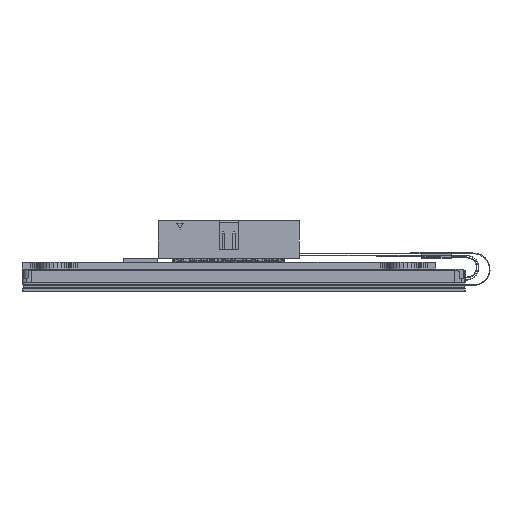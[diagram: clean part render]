
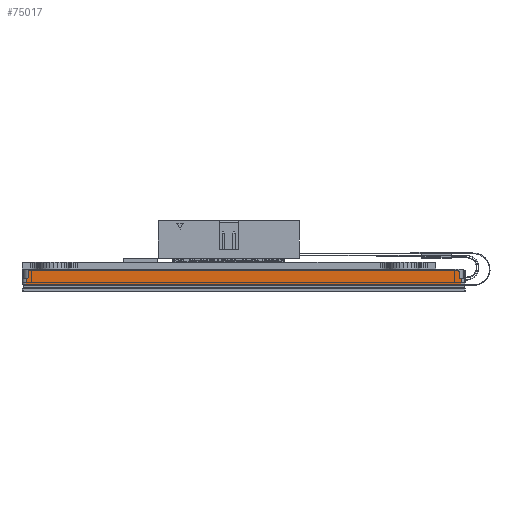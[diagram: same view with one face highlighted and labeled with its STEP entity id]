
A CAD part, left-side view. The second image highlights one B-rep face of the part: STEP entity #75017.
In plain terms, the highlighted planar face has unit normal (-1, 0, 0).
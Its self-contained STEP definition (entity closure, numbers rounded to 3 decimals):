
#1227 = VERTEX_POINT ( 'NONE', #141599 ) ;
#1663 = CARTESIAN_POINT ( 'NONE',  ( -23.939, 149.558, 129.665 ) ) ;
#7223 = CARTESIAN_POINT ( 'NONE',  ( -23.939, 47.758, 131.195 ) ) ;
#8529 = EDGE_CURVE ( 'NONE', #137666, #94457, #54977, .T. ) ;
#8570 = VERTEX_POINT ( 'NONE', #46252 ) ;
#10477 = CARTESIAN_POINT ( 'NONE',  ( -23.939, 47.758, 129.365 ) ) ;
#12494 = DIRECTION ( 'NONE',  ( 0., 1., 0. ) ) ;
#13588 = VECTOR ( 'NONE', #12494, 1000. ) ;
#15262 = ORIENTED_EDGE ( 'NONE', *, *, #32842, .T. ) ;
#15421 = CARTESIAN_POINT ( 'NONE',  ( -23.939, 149.258, 129.665 ) ) ;
#18016 = CIRCLE ( 'NONE', #126852, 0.3 ) ;
#20038 = ORIENTED_EDGE ( 'NONE', *, *, #8529, .T. ) ;
#20427 = EDGE_CURVE ( 'NONE', #108803, #119003, #61481, .T. ) ;
#21973 = LINE ( 'NONE', #74457, #129001 ) ;
#22861 = CARTESIAN_POINT ( 'NONE',  ( -23.939, 47.758, 131.195 ) ) ;
#22874 = VERTEX_POINT ( 'NONE', #150840 ) ;
#24270 = VECTOR ( 'NONE', #166151, 1000. ) ;
#26515 = CARTESIAN_POINT ( 'NONE',  ( -23.939, 48.558, 130.895 ) ) ;
#28247 = DIRECTION ( 'NONE',  ( 0., -1., 0. ) ) ;
#29712 = LINE ( 'NONE', #41973, #164032 ) ;
#32842 = EDGE_CURVE ( 'NONE', #8570, #161707, #154830, .T. ) ;
#35934 = DIRECTION ( 'NONE',  ( 0., 0., 1. ) ) ;
#37679 = DIRECTION ( 'NONE',  ( 0., 0., 1. ) ) ;
#41973 = CARTESIAN_POINT ( 'NONE',  ( -23.939, 149.758, 131.195 ) ) ;
#44480 = ORIENTED_EDGE ( 'NONE', *, *, #20427, .T. ) ;
#44861 = EDGE_CURVE ( 'NONE', #64825, #108181, #117469, .T. ) ;
#46252 = CARTESIAN_POINT ( 'NONE',  ( -23.939, 47.758, 127.995 ) ) ;
#50541 = CARTESIAN_POINT ( 'NONE',  ( -23.939, 149.258, 130.895 ) ) ;
#51197 = EDGE_CURVE ( 'NONE', #22874, #108803, #21973, .T. ) ;
#52819 = CARTESIAN_POINT ( 'NONE',  ( -23.939, 48.558, 131.195 ) ) ;
#53262 = DIRECTION ( 'NONE',  ( 0., 1., 0. ) ) ;
#54977 = CIRCLE ( 'NONE', #99676, 0.3 ) ;
#55205 = VECTOR ( 'NONE', #53262, 1000. ) ;
#57450 = CARTESIAN_POINT ( 'NONE',  ( -23.939, 148.958, 131.195 ) ) ;
#61481 = CIRCLE ( 'NONE', #167494, 0.3 ) ;
#64825 = VERTEX_POINT ( 'NONE', #158358 ) ;
#65756 = VECTOR ( 'NONE', #37679, 1000. ) ;
#66245 = ORIENTED_EDGE ( 'NONE', *, *, #92129, .T. ) ;
#66573 = VECTOR ( 'NONE', #89607, 1000. ) ;
#68122 = LINE ( 'NONE', #122294, #55205 ) ;
#68154 = DIRECTION ( 'NONE',  ( 1., 0., 0. ) ) ;
#70824 = DIRECTION ( 'NONE',  ( 0., 0., 1. ) ) ;
#74457 = CARTESIAN_POINT ( 'NONE',  ( -23.939, 48.258, 131.195 ) ) ;
#75017 = ADVANCED_FACE ( 'NONE', ( #127888 ), #156633, .T. ) ;
#79876 = DIRECTION ( 'NONE',  ( -1., 0., 0. ) ) ;
#81800 = DIRECTION ( 'NONE',  ( 1., 0., 0. ) ) ;
#84758 = EDGE_CURVE ( 'NONE', #160131, #161707, #142020, .T. ) ;
#88000 = CARTESIAN_POINT ( 'NONE',  ( -23.939, 47.958, 129.365 ) ) ;
#89607 = DIRECTION ( 'NONE',  ( 0., -1., 0. ) ) ;
#90275 = DIRECTION ( 'NONE',  ( 0., 1., 0. ) ) ;
#90579 = VECTOR ( 'NONE', #152411, 1000. ) ;
#92129 = EDGE_CURVE ( 'NONE', #161005, #64825, #137738, .T. ) ;
#94457 = VERTEX_POINT ( 'NONE', #50541 ) ;
#97192 = LINE ( 'NONE', #112885, #24270 ) ;
#98967 = EDGE_CURVE ( 'NONE', #1227, #108181, #29712, .T. ) ;
#99145 = CARTESIAN_POINT ( 'NONE',  ( -23.939, 149.258, 131.195 ) ) ;
#99676 = AXIS2_PLACEMENT_3D ( 'NONE', #139784, #164303, #124128 ) ;
#100465 = ORIENTED_EDGE ( 'NONE', *, *, #163969, .T. ) ;
#101082 = ORIENTED_EDGE ( 'NONE', *, *, #44861, .T. ) ;
#102721 = CARTESIAN_POINT ( 'NONE',  ( -23.939, 46.758, 129.365 ) ) ;
#108181 = VERTEX_POINT ( 'NONE', #150516 ) ;
#108803 = VERTEX_POINT ( 'NONE', #115089 ) ;
#109071 = ORIENTED_EDGE ( 'NONE', *, *, #116186, .F. ) ;
#112885 = CARTESIAN_POINT ( 'NONE',  ( -23.939, 47.758, 131.195 ) ) ;
#115089 = CARTESIAN_POINT ( 'NONE',  ( -23.939, 48.258, 130.895 ) ) ;
#116186 = EDGE_CURVE ( 'NONE', #8570, #1227, #68122, .T. ) ;
#117469 = LINE ( 'NONE', #130567, #13588 ) ;
#119003 = VERTEX_POINT ( 'NONE', #52819 ) ;
#121463 = DIRECTION ( 'NONE',  ( 0., -1., 0. ) ) ;
#121530 = ORIENTED_EDGE ( 'NONE', *, *, #166471, .T. ) ;
#122294 = CARTESIAN_POINT ( 'NONE',  ( -23.939, 98.758, 127.995 ) ) ;
#123361 = EDGE_CURVE ( 'NONE', #160131, #22874, #18016, .T. ) ;
#124128 = DIRECTION ( 'NONE',  ( 0., 1., 0. ) ) ;
#126852 = AXIS2_PLACEMENT_3D ( 'NONE', #135081, #81800, #135933 ) ;
#127888 = FACE_OUTER_BOUND ( 'NONE', #131859, .T. ) ;
#129001 = VECTOR ( 'NONE', #35934, 1000. ) ;
#130567 = CARTESIAN_POINT ( 'NONE',  ( -23.939, 47.758, 129.365 ) ) ;
#131859 = EDGE_LOOP ( 'NONE', ( #147399, #44480, #121530, #20038, #100465, #66245, #101082, #140261, #109071, #15262, #155894, #166217 ) ) ;
#135081 = CARTESIAN_POINT ( 'NONE',  ( -23.939, 47.958, 129.665 ) ) ;
#135933 = DIRECTION ( 'NONE',  ( 0., 1., 0. ) ) ;
#137666 = VERTEX_POINT ( 'NONE', #57450 ) ;
#137738 = CIRCLE ( 'NONE', #162790, 0.3 ) ;
#139784 = CARTESIAN_POINT ( 'NONE',  ( -23.939, 148.958, 130.895 ) ) ;
#140261 = ORIENTED_EDGE ( 'NONE', *, *, #98967, .F. ) ;
#141599 = CARTESIAN_POINT ( 'NONE',  ( -23.939, 149.758, 127.995 ) ) ;
#142020 = LINE ( 'NONE', #102721, #66573 ) ;
#147399 = ORIENTED_EDGE ( 'NONE', *, *, #51197, .T. ) ;
#150516 = CARTESIAN_POINT ( 'NONE',  ( -23.939, 149.758, 129.365 ) ) ;
#150840 = CARTESIAN_POINT ( 'NONE',  ( -23.939, 48.258, 129.665 ) ) ;
#152411 = DIRECTION ( 'NONE',  ( 0., 0., -1. ) ) ;
#154830 = LINE ( 'NONE', #22861, #65756 ) ;
#155894 = ORIENTED_EDGE ( 'NONE', *, *, #84758, .F. ) ;
#156633 = PLANE ( 'NONE',  #161661 ) ;
#158358 = CARTESIAN_POINT ( 'NONE',  ( -23.939, 149.558, 129.365 ) ) ;
#160131 = VERTEX_POINT ( 'NONE', #88000 ) ;
#161005 = VERTEX_POINT ( 'NONE', #15421 ) ;
#161661 = AXIS2_PLACEMENT_3D ( 'NONE', #7223, #169776, #90275 ) ;
#161707 = VERTEX_POINT ( 'NONE', #10477 ) ;
#162790 = AXIS2_PLACEMENT_3D ( 'NONE', #1663, #68154, #121463 ) ;
#163969 = EDGE_CURVE ( 'NONE', #94457, #161005, #165542, .T. ) ;
#164032 = VECTOR ( 'NONE', #70824, 1000. ) ;
#164303 = DIRECTION ( 'NONE',  ( -1., 0., 0. ) ) ;
#165542 = LINE ( 'NONE', #99145, #90579 ) ;
#166151 = DIRECTION ( 'NONE',  ( 0., 1., 0. ) ) ;
#166217 = ORIENTED_EDGE ( 'NONE', *, *, #123361, .T. ) ;
#166471 = EDGE_CURVE ( 'NONE', #119003, #137666, #97192, .T. ) ;
#167494 = AXIS2_PLACEMENT_3D ( 'NONE', #26515, #79876, #28247 ) ;
#169776 = DIRECTION ( 'NONE',  ( -1., 0., 0. ) ) ;
